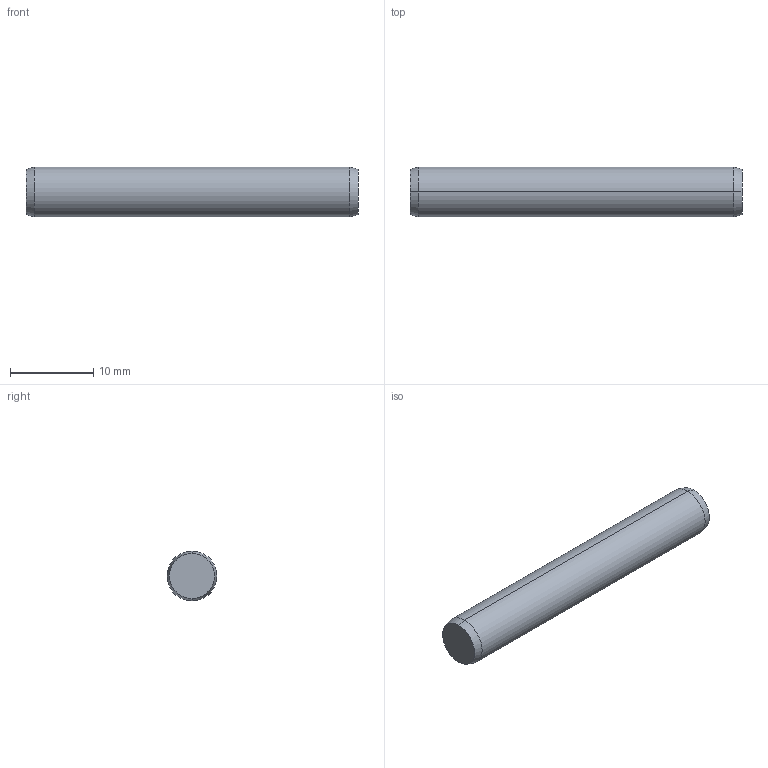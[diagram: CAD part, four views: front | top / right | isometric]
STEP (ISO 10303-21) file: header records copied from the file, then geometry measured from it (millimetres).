
FILE_DESCRIPTION (( 'STEP AP203' ), '1' );
FILE_NAME ('P1206.060-040.step', '2017-06-14T08:22:27', ( 'User' ), ( '' ), 'SwSTEP 2.0', 'SolidWorks 2009', '' );
FILE_SCHEMA (( 'CONFIG_CONTROL_DESIGN' ));
Length unit declared in the file: millimetre
Products named in the file (1): P1206.060-040
Bounding box: 40 x 6 x 6 mm (x, y, z)
Volume: 1126.1 mm3; surface area: 800.5 mm2
Topology: 1 solids, 1 shells, 8 faces, 14 edges, 8 vertices
Faces by surface type: cone 4, cylinder 2, plane 2
Entity records: 271 total; most frequent: DIRECTION 40, CARTESIAN_POINT 31, ORIENTED_EDGE 28, AXIS2_PLACEMENT_3D 17, EDGE_CURVE 14, VERTEX_POINT 8, ADVANCED_FACE 8, EDGE_LOOP 8
